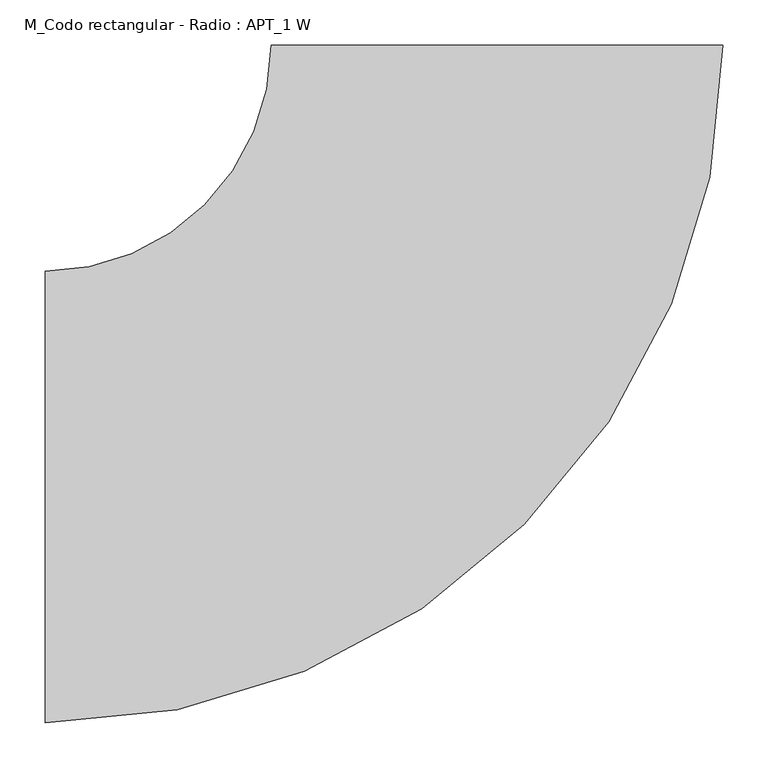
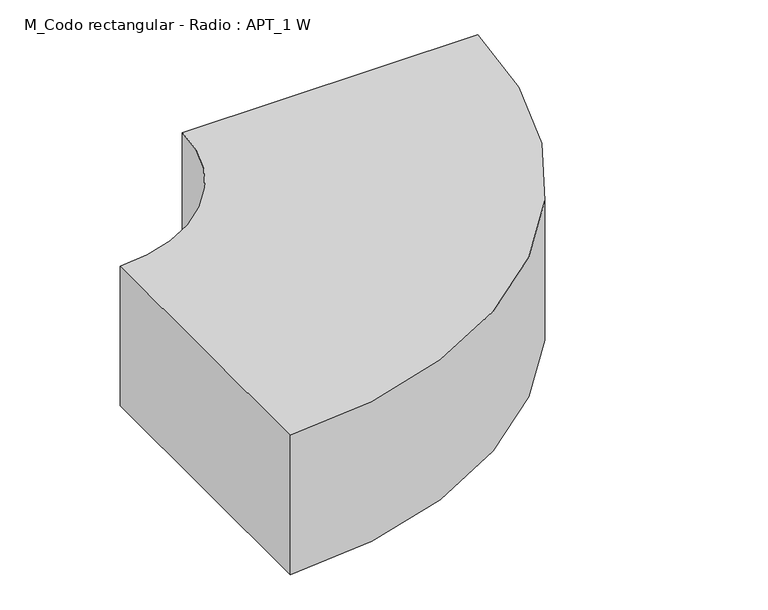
"""IFC4 building model written with IfcOpenShell, lengths in millimetres: duct fitting geometry, M_Codo rectangular - Radio : APT_1 W."""

import ifcopenshell
import ifcopenshell.guid

model = None  # the IFC model being written
_history = None  # IfcOwnerHistory: only IFC2X3 demands one
_inside = {}  # id of a spatial element -> (the spatial element, [elements in it])
_under = {}  # id of a project, library or spatial element -> (it, [spatial elements below it])
_declared = {}  # id of a project -> (the project, [libraries it declares])
_typed = {}  # id of a type object -> (the type object, [elements of that type])
_made_of = {}  # id of a material, layer set ... -> (it, [elements and type objects made of it])


def new_model(schema):
    """Start an empty IFC model of exactly this schema.

    Asked for "IFC4X3", IfcOpenShell would pick the latest addendum, in which some entities
    have other attributes; the version numbers below select the first issue.
    IFC2X3 requires an IfcOwnerHistory on every rooted entity: one is made here for all.
    """
    global model, _history
    if schema == "IFC4X3":
        model = ifcopenshell.file(schema_version=(4, 3, 0, 0))
    else:
        model = ifcopenshell.file(schema=schema)
    _inside.clear()
    _under.clear()
    _declared.clear()
    _typed.clear()
    _made_of.clear()
    _history = None
    if model.schema == "IFC2X3":
        org = make("IfcOrganization", Name="unknown")
        user = make(
            "IfcPersonAndOrganization",
            ThePerson=make("IfcPerson", FamilyName="unknown"),
            TheOrganization=org,
        )
        app = make(
            "IfcApplication",
            ApplicationDeveloper=org,
            Version="unknown",
            ApplicationFullName="unknown",
            ApplicationIdentifier="unknown",
        )
        _history = make(
            "IfcOwnerHistory",
            OwningUser=user,
            OwningApplication=app,
            ChangeAction="ADDED",
            CreationDate=0,
        )
    return model


def make(cls, **values):
    """One entity of the class cls with the attributes given. An attribute that is None is left unset."""
    return model.create_entity(
        cls, **{name: value for name, value in values.items() if value is not None}
    )


def rooted(cls, **values):
    """An entity with a GlobalId (a new one), such as an element, a storey or a relation."""
    return make(cls, GlobalId=ifcopenshell.guid.new(), OwnerHistory=_history, **values)


def si_unit(unit_type, name, prefix=None):
    """IfcSIUnit, for example si_unit("LENGTHUNIT", "METRE", prefix="MILLI")."""
    return make("IfcSIUnit", UnitType=unit_type, Prefix=prefix, Name=name)


def assignment(units):
    """IfcUnitAssignment: the units of a project."""
    return None if units is None else make("IfcUnitAssignment", Units=units)


def point(xyz):
    """IfcCartesianPoint."""
    return None if xyz is None else make("IfcCartesianPoint", Coordinates=xyz)


def direction(xyz):
    """IfcDirection."""
    return None if xyz is None else make("IfcDirection", DirectionRatios=xyz)


def frame(location, z_axis=None, x_axis=None):
    """IfcAxis2Placement3D, a coordinate frame: its origin and axes. An axis left out is left unset."""
    return make(
        "IfcAxis2Placement3D",
        Location=point(location),
        Axis=direction(z_axis),
        RefDirection=direction(x_axis),
    )


def frame_2d(location, x_axis=None):
    """IfcAxis2Placement2D, a coordinate frame in the plane: its origin and x axis."""
    return make(
        "IfcAxis2Placement2D", Location=point(location), RefDirection=direction(x_axis)
    )


def origin():
    """The frame at (0, 0, 0) with its axes left unset."""
    return frame((0.0, 0.0, 0.0))


def place(relative_to, where):
    """IfcLocalPlacement: puts the frame where relative to a parent placement (None: the world)."""
    return make(
        "IfcLocalPlacement", PlacementRelTo=relative_to, RelativePlacement=where
    )


def context(
    kind, dimensions, precision=None, world=None, true_north=None, identifier=None
):
    """IfcGeometricRepresentationContext, for example the 3D "Model" context."""
    return make(
        "IfcGeometricRepresentationContext",
        ContextIdentifier=identifier,
        ContextType=kind,
        CoordinateSpaceDimension=dimensions,
        Precision=precision,
        WorldCoordinateSystem=world,
        TrueNorth=true_north,
    )


def project(units=None, contexts=None):
    """IfcProject with its units and contexts."""
    return rooted(
        "IfcProject",
        Name="project",
        RepresentationContexts=contexts,
        UnitsInContext=assignment(units),
    )


def spatial(cls, under=None, at=None, **own):
    """A site, building, storey or space (cls), placed at a placement, below another one or the project."""
    s = rooted(cls, ObjectPlacement=at, **own)
    if under is not None:
        _under.setdefault(under.id(), (under, []))[1].append(s)
    return s


def polyline(points):
    """IfcPolyline through the points."""
    return make("IfcPolyline", Points=[point(p) for p in points])


def circle_curve(where, radius):
    """IfcCircle in the frame where."""
    return make("IfcCircle", Position=where, Radius=radius)


def trimmed(basis, trim1, trim2, sense, master):
    """IfcTrimmedCurve: the piece of a basis curve between two trims."""
    return make(
        "IfcTrimmedCurve",
        BasisCurve=basis,
        Trim1=trim1,
        Trim2=trim2,
        SenseAgreement=sense,
        MasterRepresentation=master,
    )


def segment(curve, same_sense, transition):
    """IfcCompositeCurveSegment."""
    return make(
        "IfcCompositeCurveSegment",
        Transition=transition,
        SameSense=same_sense,
        ParentCurve=curve,
    )


def composite_curve(segments, self_intersect=None):
    """IfcCompositeCurve: segments joined end to end."""
    return make("IfcCompositeCurve", Segments=segments, SelfIntersect=self_intersect)


def outline(outer, holes=None, kind="AREA"):
    """IfcArbitraryClosedProfileDef: a profile drawn as a closed curve; with holes, ...WithVoids."""
    if holes is None:
        return make("IfcArbitraryClosedProfileDef", ProfileType=kind, OuterCurve=outer)
    return make(
        "IfcArbitraryProfileDefWithVoids",
        ProfileType=kind,
        OuterCurve=outer,
        InnerCurves=holes,
    )


def extrude(swept, where, along, depth):
    """IfcExtrudedAreaSolid: the profile swept, set in the frame where, extruded along a direction by depth."""
    return make(
        "IfcExtrudedAreaSolid",
        SweptArea=swept,
        Position=where,
        ExtrudedDirection=direction(along),
        Depth=depth,
    )


def shape(context_of_items, identifier, shape_type, items):
    """IfcShapeRepresentation: the items that make up one representation, for example the "Body"."""
    return make(
        "IfcShapeRepresentation",
        ContextOfItems=context_of_items,
        RepresentationIdentifier=identifier,
        RepresentationType=shape_type,
        Items=items,
    )


def source(mapping_origin, context_of_items, identifier, shape_type, items):
    """IfcRepresentationMap: a shape defined once, which mapped items show again and again."""
    return make(
        "IfcRepresentationMap",
        MappingOrigin=mapping_origin,
        MappedRepresentation=shape(context_of_items, identifier, shape_type, items),
    )


def transform(
    local_origin,
    x_axis=None,
    y_axis=None,
    z_axis=None,
    scale=None,
    scale2=None,
    scale3=None,
    uniform=True,
):
    """IfcCartesianTransformationOperator3D, or its non-uniform kind. x_axis, y_axis, z_axis: its Axis1, 2, 3."""
    if uniform:
        return make(
            "IfcCartesianTransformationOperator3D",
            Axis1=direction(x_axis),
            Axis2=direction(y_axis),
            LocalOrigin=point(local_origin),
            Scale=scale,
            Axis3=direction(z_axis),
        )
    return make(
        "IfcCartesianTransformationOperator3DnonUniform",
        Axis1=direction(x_axis),
        Axis2=direction(y_axis),
        LocalOrigin=point(local_origin),
        Scale=scale,
        Axis3=direction(z_axis),
        Scale2=scale2,
        Scale3=scale3,
    )


def mapped(mapping_source, mapping_target):
    """IfcMappedItem: shows the shape of a source again, moved by a transform."""
    return make(
        "IfcMappedItem", MappingSource=mapping_source, MappingTarget=mapping_target
    )


def made_of(thing, what):
    """Note that an element or type object is made of a material, layer set ...; save() writes the relation."""
    if what is not None:
        _made_of.setdefault(what.id(), (what, []))[1].append(thing)
    return thing


def element(
    cls,
    number,
    at=None,
    inside=None,
    cuts=None,
    type_object=None,
    material=None,
    context=None,
    identifier="Body",
    shape_type=None,
    held_by="IfcProductDefinitionShape",
    body=None,
    shapes=None,
    **own,
):
    """One element of the class cls, such as IfcWall. Its Tag is "e" and its number.

    at: its placement. inside: the storey or other place that contains it. cuts: it is an
    opening in that element (IfcRelVoidsElement). A single representation is given by context,
    identifier, shape_type and body (its items); several are given by shapes. held_by: the class
    of the entity that holds the representations. save() writes the other relations.
    """
    e = rooted(cls, Tag="e%d" % number, ObjectPlacement=at, **own)
    if body is not None:
        shapes = [shape(context, identifier, shape_type, body)]
    if shapes is not None:
        e.Representation = make(held_by, Representations=shapes)
    if inside is not None:
        _inside.setdefault(inside.id(), (inside, []))[1].append(e)
    if cuts is not None:
        rooted(
            "IfcRelVoidsElement", RelatingBuildingElement=cuts, RelatedOpeningElement=e
        )
    if type_object is not None:
        _typed.setdefault(type_object.id(), (type_object, []))[1].append(e)
    return made_of(e, material)


def aggregate(whole, parts):
    """IfcRelAggregates: a whole, such as a stair, and the parts it consists of."""
    return rooted("IfcRelAggregates", RelatingObject=whole, RelatedObjects=parts)


def save(model, path):
    """Write the relations noted so far, then the file.

    IfcRelAggregates (storeys below a building ...), IfcRelContainedInSpatialStructure (elements
    in a storey), IfcRelDefinesByType, IfcRelAssociatesMaterial and IfcRelDeclares: one each for
    every whole, place, type object, material and project.
    """
    for whole, parts in _under.values():
        aggregate(whole, parts)
    for where, things in _inside.values():
        rooted(
            "IfcRelContainedInSpatialStructure",
            RelatedElements=things,
            RelatingStructure=where,
        )
    for kind, things in _typed.values():
        rooted("IfcRelDefinesByType", RelatedObjects=things, RelatingType=kind)
    for what, things in _made_of.values():
        rooted("IfcRelAssociatesMaterial", RelatedObjects=things, RelatingMaterial=what)
    for by, libraries in _declared.values():
        rooted("IfcRelDeclares", RelatingContext=by, RelatedDefinitions=libraries)
    model.write(path)


def m_codo_rectangular_radio_apt_1_w_255882bf(model_context):
    return source(origin(), model_context, "Body", "SweptSolid", [
        extrude(outline(composite_curve([segment(trimmed(circle_curve(frame_2d((-500.0, 500.0)), 750.0), [point((250.0, 500.0))], [point((-500.0, -250.0))], False, "CARTESIAN"), True, "CONTINUOUS"), segment(polyline([(-500.0, -250.0), (-500.0, 250.0)]), True, "CONTINUOUS"), segment(trimmed(circle_curve(frame_2d((-500.0, 500.0)), 250.0), [point((-500.0, 250.0))], [point((-250.0, 500.0))], True, "CARTESIAN"), True, "CONTINUOUS"), segment(polyline([(-250.0, 500.0), (250.0, 500.0)]), True, "CONTINUOUS")], self_intersect=False)), frame((0.0, 0.0, -125.0), z_axis=(0.0, 0.0, 1.0), x_axis=(1.0, 0.0, 0.0)), (0.0, 0.0, 1.0), 250.0),
    ])


if __name__ == "__main__":
    model = new_model("IFC4")
    model_context = context("Model", 3, world=origin())
    ifc_project = project(units=[si_unit("LENGTHUNIT", "METRE", prefix="MILLI")], contexts=[model_context])
    site = spatial("IfcSite", under=ifc_project)
    building = spatial("IfcBuilding", under=site)
    placement = place(None, origin())
    m_codo_rectangular_radio_apt_1_w_shape = m_codo_rectangular_radio_apt_1_w_255882bf(model_context)
    element("IfcDuctFitting", 1, ObjectType="M_Codo rectangular - Radio : APT_1 W", at=placement, inside=building, context=model_context, shape_type="MappedRepresentation", body=[
        mapped(m_codo_rectangular_radio_apt_1_w_shape, transform((0.0, 0.0, 0.0), x_axis=(1.0, 0.0, 0.0), y_axis=(0.0, 1.0, 0.0), z_axis=(0.0, 0.0, 1.0))),
    ])
    save(model, "model.ifc")
